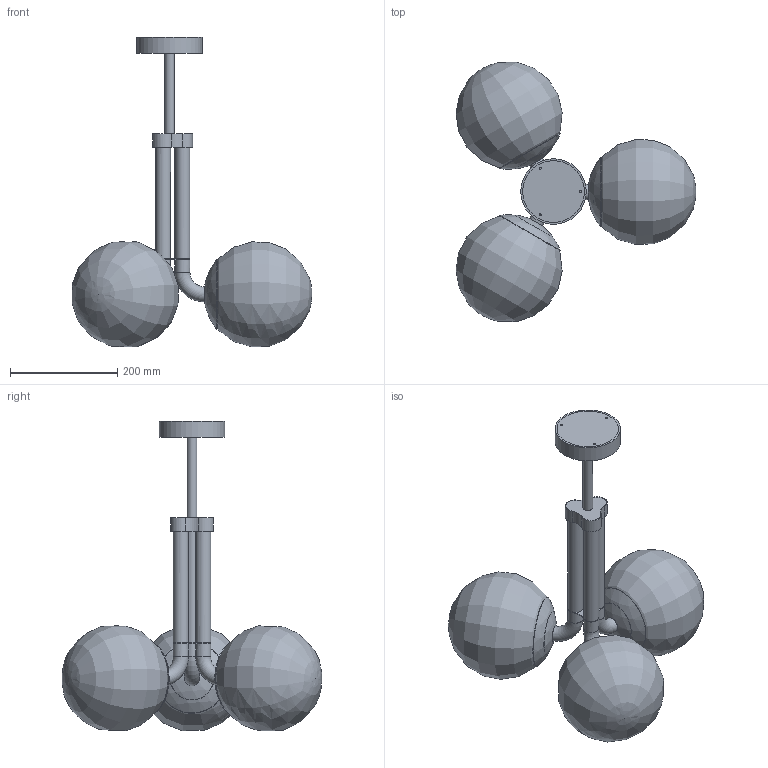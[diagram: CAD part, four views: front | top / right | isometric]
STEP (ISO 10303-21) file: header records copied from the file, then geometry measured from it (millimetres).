
FILE_DESCRIPTION(/* description */ (''),/* implementation_level */ '2;1');
FILE_NAME(/* name */ 'T:\B149 Tubular 500\Pliki bryłowe handlowe\B149 Tubular SM 3D files\B149 Tubular SM.stp',/* time_stamp */ '2022-01-24T16:08:03+01:00',/* author */ ('Mariusz Awariusz'),/* organization */ (''),/* preprocessor_version */ 'ST-DEVELOPER v18.1',/* originating_system */ 'Autodesk Inventor 2022',/* authorisation */ '');
FILE_SCHEMA (('AUTOMOTIVE_DESIGN { 1 0 10303 214 3 1 1 }'));
Length unit declared in the file: millimetre
Products named in the file (1): Tubular 500 CE V7_na potrzeby plików 3D_2_jako część
Bounding box: 446.74 x 482.82 x 576.76 mm (x, y, z)
Volume: 1662629.5 mm3; surface area: 959067.6 mm2
Topology: 4 solids, 4 shells, 82 faces, 172 edges, 116 vertices
Faces by surface type: cylinder 29, plane 23, torus 12, sphere 9, bspline 6, cone 3
Full cylindrical faces by diameter (mm): 10 x3, 18 x1, 25 x3, 28 x6, 80.221 x3, 122 x1
Entity records: 2712 total; most frequent: CARTESIAN_POINT 827, DIRECTION 436, ORIENTED_EDGE 332, AXIS2_PLACEMENT_3D 199, EDGE_CURVE 166, CIRCLE 122, VERTEX_POINT 116, EDGE_LOOP 110
